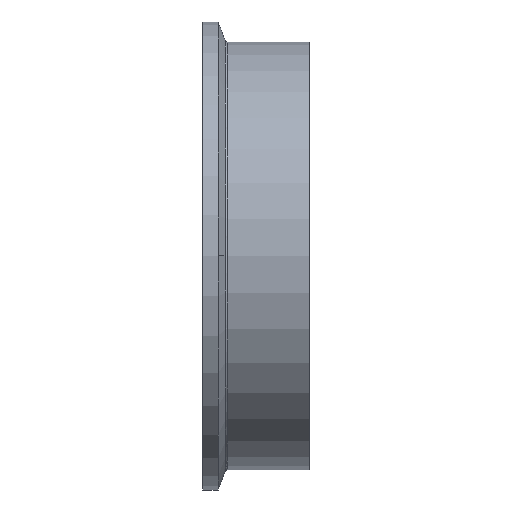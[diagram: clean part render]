
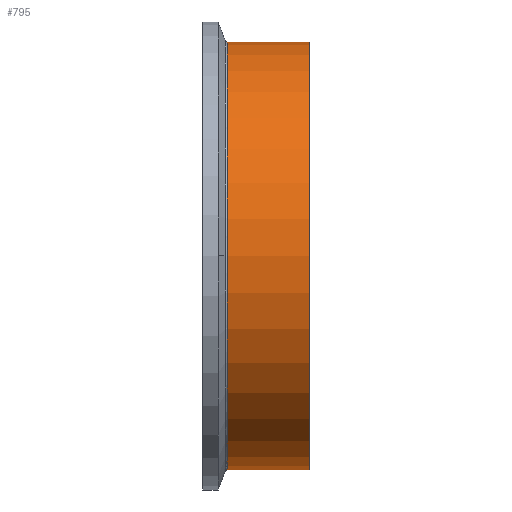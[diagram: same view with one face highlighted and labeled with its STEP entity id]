
A CAD part, top view. The second image highlights one B-rep face of the part: STEP entity #795.
In plain terms, the highlighted cylindrical face has radius 76.2 mm (diameter 152.4 mm), a partial arc.
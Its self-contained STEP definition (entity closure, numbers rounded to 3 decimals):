
#62 = CARTESIAN_POINT ( 'NONE',  ( 45.786, 76.2, 0. ) ) ;
#91 = VECTOR ( 'NONE', #802, 1000. ) ;
#154 = EDGE_CURVE ( 'NONE', #211, #894, #1254, .T. ) ;
#164 = CIRCLE ( 'NONE', #919, 76.2 ) ;
#211 = VERTEX_POINT ( 'NONE', #476 ) ;
#246 = LINE ( 'NONE', #1582, #1357 ) ;
#294 = DIRECTION ( 'NONE',  ( 1., 0., 0. ) ) ;
#336 = ORIENTED_EDGE ( 'NONE', *, *, #154, .F. ) ;
#389 = CARTESIAN_POINT ( 'NONE',  ( 0., -76.2, 0. ) ) ;
#433 = AXIS2_PLACEMENT_3D ( 'NONE', #517, #675, #1250 ) ;
#434 = DIRECTION ( 'NONE',  ( 1., 0., 0. ) ) ;
#476 = CARTESIAN_POINT ( 'NONE',  ( 0., 76.2, 0. ) ) ;
#517 = CARTESIAN_POINT ( 'NONE',  ( 45.786, 0., 0. ) ) ;
#636 = CARTESIAN_POINT ( 'NONE',  ( -29.237, -76.2, 0. ) ) ;
#669 = CARTESIAN_POINT ( 'NONE',  ( -29.237, 0., 0. ) ) ;
#671 = ORIENTED_EDGE ( 'NONE', *, *, #1039, .T. ) ;
#675 = DIRECTION ( 'NONE',  ( 1., 0., 0. ) ) ;
#795 = ADVANCED_FACE ( 'NONE', ( #1187 ), #804, .T. ) ;
#802 = DIRECTION ( 'NONE',  ( 1., 0., 0. ) ) ;
#804 = CYLINDRICAL_SURFACE ( 'NONE', #433, 76.2 ) ;
#812 = DIRECTION ( 'NONE',  ( 0., 1., 0. ) ) ;
#832 = EDGE_LOOP ( 'NONE', ( #671, #1445, #336, #1109 ) ) ;
#894 = VERTEX_POINT ( 'NONE', #389 ) ;
#912 = LINE ( 'NONE', #62, #91 ) ;
#919 = AXIS2_PLACEMENT_3D ( 'NONE', #669, #1683, #812 ) ;
#1039 = EDGE_CURVE ( 'NONE', #1774, #1392, #164, .T. ) ;
#1109 = ORIENTED_EDGE ( 'NONE', *, *, #1507, .F. ) ;
#1154 = CARTESIAN_POINT ( 'NONE',  ( -29.237, 76.2, 0. ) ) ;
#1187 = FACE_OUTER_BOUND ( 'NONE', #832, .T. ) ;
#1250 = DIRECTION ( 'NONE',  ( 0., 1., 0. ) ) ;
#1254 = CIRCLE ( 'NONE', #1526, 76.2 ) ;
#1300 = CARTESIAN_POINT ( 'NONE',  ( 0., 0., 0. ) ) ;
#1357 = VECTOR ( 'NONE', #434, 1000. ) ;
#1392 = VERTEX_POINT ( 'NONE', #636 ) ;
#1445 = ORIENTED_EDGE ( 'NONE', *, *, #1853, .T. ) ;
#1507 = EDGE_CURVE ( 'NONE', #1774, #211, #912, .T. ) ;
#1526 = AXIS2_PLACEMENT_3D ( 'NONE', #1300, #294, #1884 ) ;
#1582 = CARTESIAN_POINT ( 'NONE',  ( 45.786, -76.2, 0. ) ) ;
#1683 = DIRECTION ( 'NONE',  ( 1., 0., 0. ) ) ;
#1774 = VERTEX_POINT ( 'NONE', #1154 ) ;
#1853 = EDGE_CURVE ( 'NONE', #1392, #894, #246, .T. ) ;
#1884 = DIRECTION ( 'NONE',  ( 0., 1., 0. ) ) ;
